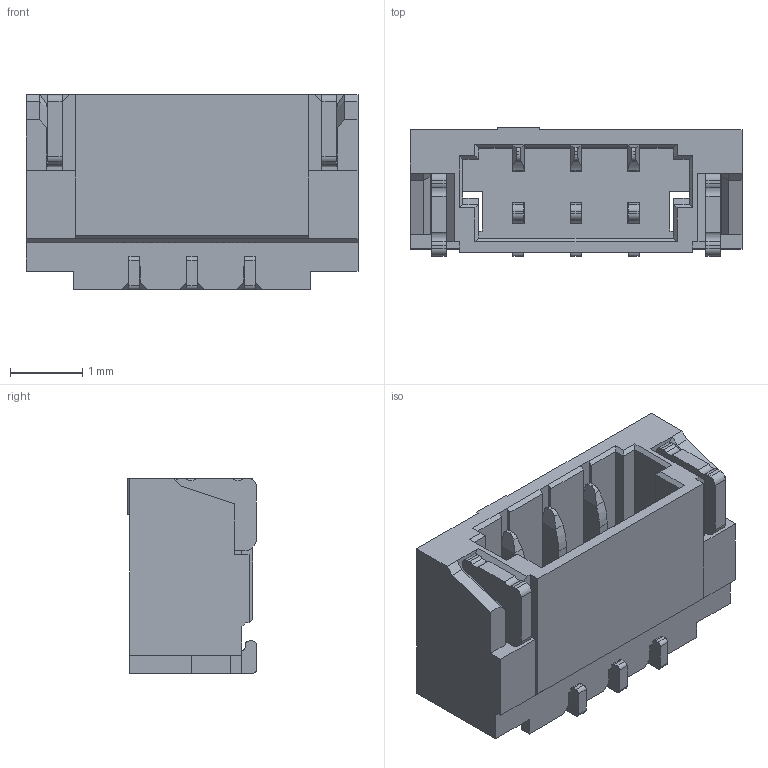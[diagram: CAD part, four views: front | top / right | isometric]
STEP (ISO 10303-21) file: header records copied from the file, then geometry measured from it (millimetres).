
FILE_DESCRIPTION((''),'2;1');
FILE_NAME('SCT0800WRS-03','2023-04-10T15:37:37',('Administrator'),(''),'CREO PARAMETRIC BY PTC INC, 2018050','CREO PARAMETRIC BY PTC INC, 2018050','');
FILE_SCHEMA(('CONFIG_CONTROL_DESIGN'));
Length unit declared in the file: millimetre
Products named in the file (1): SCT0800WRS-03
Bounding box: 4.6 x 1.78 x 2.7 mm (x, y, z)
Volume: 13 mm3; surface area: 89.2 mm2
Topology: 1 solids, 1 shells, 359 faces, 1105 edges, 712 vertices
Faces by surface type: plane 251, cylinder 108
Entity records: 12405 total; most frequent: CARTESIAN_POINT 2334, ORIENTED_EDGE 2210, DIRECTION 1993, EDGE_CURVE 1105, VECTOR 879, LINE 879, VERTEX_POINT 712, AXIS2_PLACEMENT_3D 557
